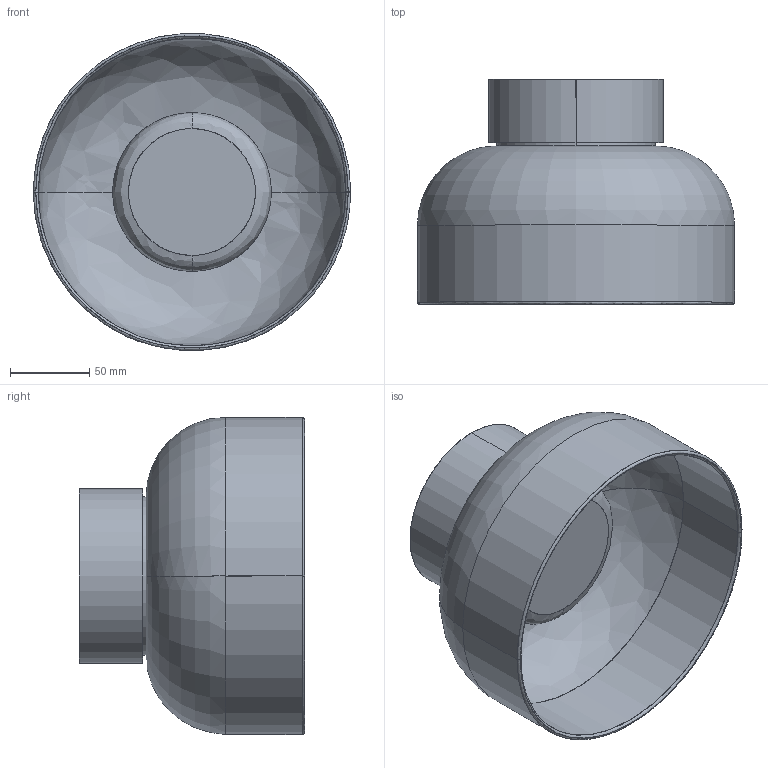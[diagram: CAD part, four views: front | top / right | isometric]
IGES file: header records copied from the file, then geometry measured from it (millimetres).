
Start section: SolidWorks IGES file using analytic representation for surfaces
Global section: file name: C:\Users\adrian\Desktop\MODELADOS USA\IPON_\AU1316\IPON_AU1316.IGS; native system: SolidWorks 2023; preprocessor: SolidWorks 2023; author: adrian; date: 260605.100350; units: millimetre
Bounding box: 200 x 142 x 200 mm (x, y, z)
Surface area: 246916.6 mm2 (no closed solid volume)
Topology: 0 solids, 0 shells, 35 faces, 864 edges, 864 vertices
Faces by surface type: bspline 21, revolution 14
